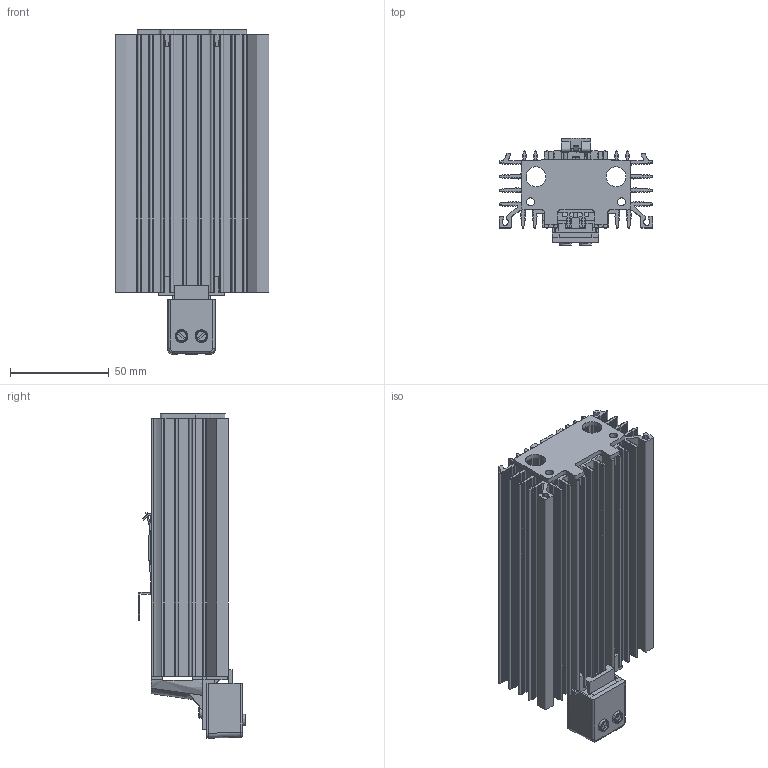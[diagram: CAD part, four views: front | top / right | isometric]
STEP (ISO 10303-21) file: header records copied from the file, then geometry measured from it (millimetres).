
FILE_DESCRIPTION(/* description */ (''),/* implementation_level */ '2;1');
FILE_NAME(/* name */ 'SHT75',/* time_stamp */ '2023-02-16T14:15:20+01:00',/* author */ (''),/* organization */ (''),/* preprocessor_version */ 'ST-DEVELOPER v16.5',/* originating_system */ '',/* authorisation */ '');
FILE_SCHEMA (('AUTOMOTIVE_DESIGN'));
Length unit declared in the file: millimetre
Products named in the file (1): Document
Bounding box: 77.5 x 54.13 x 163.87 mm (x, y, z)
Volume: 162376.5 mm3; surface area: 231141.2 mm2
Topology: 12 solids, 12 shells, 1389 faces, 4049 edges, 2702 vertices
Faces by surface type: bspline 1077, plane 312
Entity records: 49371 total; most frequent: CARTESIAN_POINT 27691, ORIENTED_EDGE 7850, EDGE_CURVE 3925, VERTEX_POINT 2584, B_SPLINE_CURVE_WITH_KNOTS 1847, EDGE_LOOP 1405, ADVANCED_FACE 1367, FACE_OUTER_BOUND 1367
